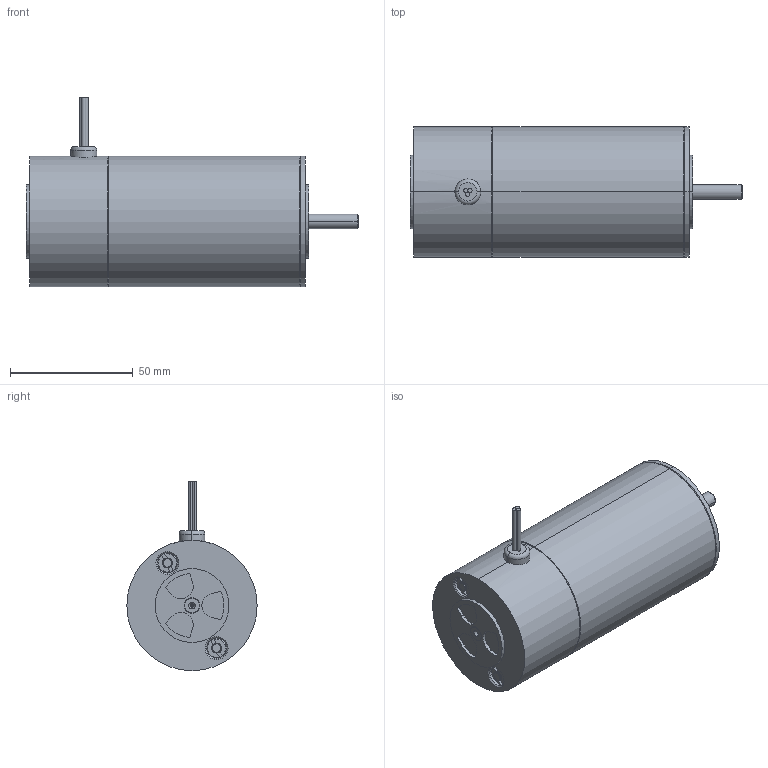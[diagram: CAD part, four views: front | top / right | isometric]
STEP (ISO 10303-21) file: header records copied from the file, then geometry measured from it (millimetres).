
FILE_DESCRIPTION (( 'STEP AP214' ), '1' );
FILE_NAME ('G565.STEP', '2009-12-08T10:00:44', ( 'hirschmeier' ), ( '' ), 'SwSTEP 2.0', 'SolidWorks 2008', '' );
FILE_SCHEMA (( 'AUTOMOTIVE_DESIGN' ));
Length unit declared in the file: millimetre
Products named in the file (1): G565
Bounding box: 135 x 53 x 77 mm (x, y, z)
Volume: 249335.3 mm3; surface area: 25448.9 mm2
Topology: 1 solids, 1 shells, 156 faces, 365 edges, 222 vertices
Faces by surface type: cylinder 60, cone 52, plane 42, torus 2
Entity records: 5782 total; most frequent: DIRECTION 841, CARTESIAN_POINT 834, ORIENTED_EDGE 706, EDGE_CURVE 353, AXIS2_PLACEMENT_3D 341, VERTEX_POINT 222, CIRCLE 184, EDGE_LOOP 179
